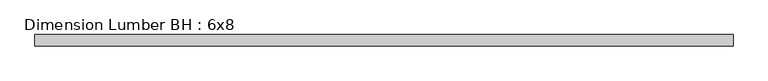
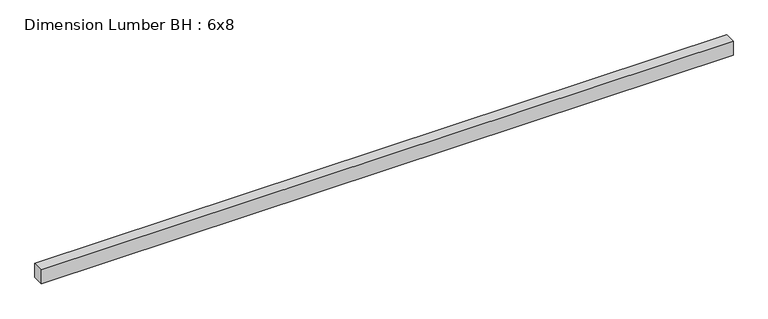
"""IFC4 building model written with IfcOpenShell, lengths in millimetres: beam geometry, Dimension Lumber BH : 6x8."""

from ifc_helpers import new_model, si_unit, frame, origin, place, context, project, spatial, polyline, outline, extrude, source, transform, mapped, element, save


def dimension_lumber_bh_6x8_fb310b90(model_context):
    return source(origin(), model_context, "Body", "SweptSolid", [
        extrude(outline(polyline([(4339.48205, 69.85), (4339.48205, -69.85), (-4339.48205, -69.85), (-4339.48205, 69.85), (4339.48205, 69.85)])), frame((0.0, 0.0, -92.075), z_axis=(0.0, 0.0, 1.0), x_axis=(1.0, 0.0, 0.0)), (0.0, 0.0, 1.0), 184.15),
    ])


if __name__ == "__main__":
    model = new_model("IFC4")
    model_context = context("Model", 3, world=origin())
    ifc_project = project(units=[si_unit("LENGTHUNIT", "METRE", prefix="MILLI")], contexts=[model_context])
    site = spatial("IfcSite", under=ifc_project)
    building = spatial("IfcBuilding", under=site)
    placement = place(None, origin())
    dimension_lumber_bh_6x8_shape = dimension_lumber_bh_6x8_fb310b90(model_context)
    element("IfcBeam", 1, ObjectType="Dimension Lumber BH : 6x8", at=placement, inside=building, context=model_context, shape_type="MappedRepresentation", body=[
        mapped(dimension_lumber_bh_6x8_shape, transform((0.0, 0.0, 0.0), x_axis=(1.0, 0.0, 0.0), y_axis=(0.0, 1.0, 0.0), z_axis=(0.0, 0.0, 1.0))),
    ])
    save(model, "model.ifc")
